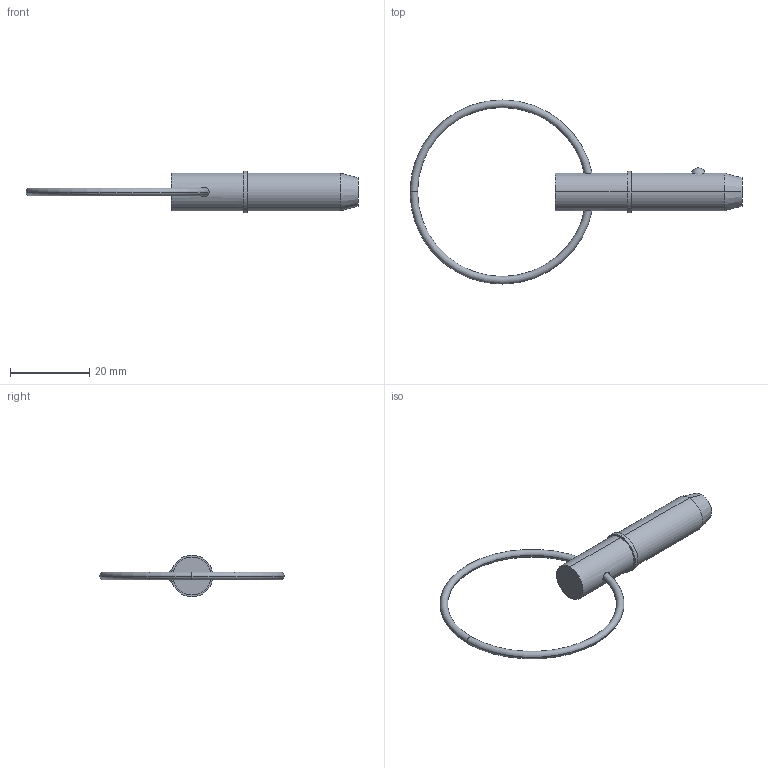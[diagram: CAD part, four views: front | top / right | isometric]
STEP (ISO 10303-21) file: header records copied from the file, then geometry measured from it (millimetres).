
FILE_DESCRIPTION (( 'STEP AP203' ), '1' );
FILE_NAME ('33014.W3706.step', '2024-11-04T08:25:59', ( '' ), ( '' ), 'SwSTEP 2.0', 'SolidWorks 2019', '' );
FILE_SCHEMA (( 'CONFIG_CONTROL_DESIGN' ));
Length unit declared in the file: millimetre
Products named in the file (3): Part2_33014.W3706; Part1_33014.W3706; 33014.W3706
Assembly tree (2 placements, depth 2):
  33014.W3706
    Part1_33014.W3706
    Part2_33014.W3706
Bounding box: 83.57 x 46.36 x 10.48 mm (x, y, z)
Volume: 3657.1 mm3; surface area: 2442.8 mm2
Topology: 2 solids, 2 shells, 22 faces, 43 edges, 26 vertices
Faces by surface type: torus 8, cylinder 6, plane 4, sphere 2, cone 2
Entity records: 1005 total; most frequent: CARTESIAN_POINT 228, DIRECTION 120, ORIENTED_EDGE 86, AXIS2_PLACEMENT_3D 56, EDGE_CURVE 43, CIRCLE 29, EDGE_LOOP 27, VERTEX_POINT 26
